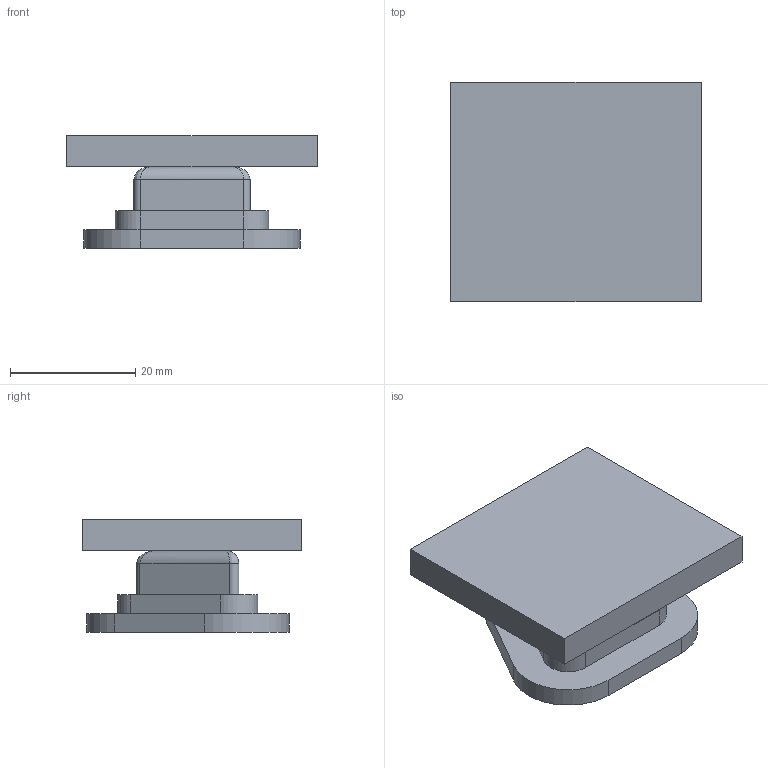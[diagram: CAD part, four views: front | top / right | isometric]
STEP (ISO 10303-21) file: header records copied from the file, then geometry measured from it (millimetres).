
FILE_DESCRIPTION(/* description */ (''),/* implementation_level */ '2;1');
FILE_NAME(/* name */ 'C:/- FabAcademy A/Week12/Mold and casting v5.step',/* time_stamp */ '2017-06-28T18:27:51-03:00',/* author */ (''),/* organization */ (''),/* preprocessor_version */ 'ST-DEVELOPER v16.13',/* originating_system */ 'Autodesk Translation Framework v6.1.1.50',/* authorisation */ '');
FILE_SCHEMA (('AUTOMOTIVE_DESIGN { 1 0 10303 214 3 1 1 }'));
Length unit declared in the file: millimetre
Products named in the file (1): Mold and casting v5
Bounding box: 40 x 35 x 18 mm (x, y, z)
Volume: 10594.8 mm3; surface area: 6327.7 mm2
Topology: 3 solids, 3 shells, 43 faces, 93 edges, 55 vertices
Faces by surface type: plane 24, cylinder 16, bspline 3
Full cylindrical faces by diameter (mm): 2 x1
Entity records: 1269 total; most frequent: CARTESIAN_POINT 305, DIRECTION 200, ORIENTED_EDGE 190, EDGE_CURVE 89, AXIS2_PLACEMENT_3D 70, LINE 60, VECTOR 60, VERTEX_POINT 55
